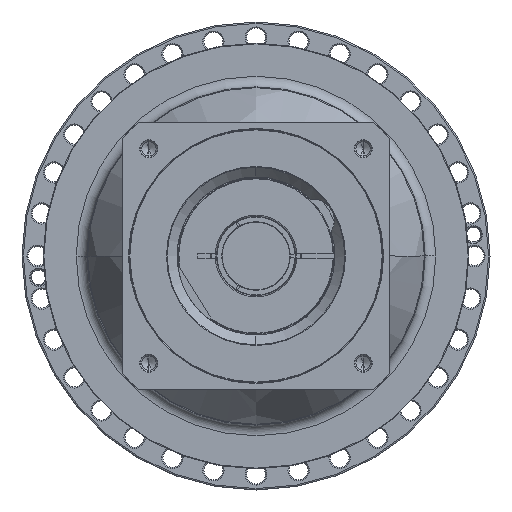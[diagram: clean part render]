
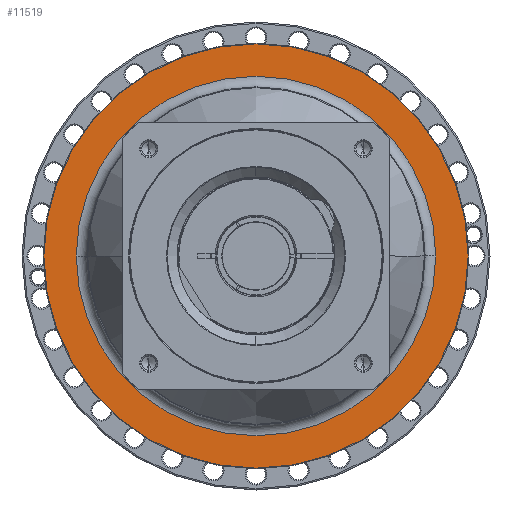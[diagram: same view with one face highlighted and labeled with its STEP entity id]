
A CAD part, left-side view. The second image highlights one B-rep face of the part: STEP entity #11519.
In plain terms, the highlighted planar face has unit normal (-1, 0, 0) as drawn and (1, 0, 0) by its records, which use the part's own axes.
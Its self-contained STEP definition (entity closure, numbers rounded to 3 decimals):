
#11032=CARTESIAN_POINT('',(-62.,0.,0.));
#11033=DIRECTION('',(1.,0.,0.));
#11034=DIRECTION('',(0.,1.,0.));
#11035=AXIS2_PLACEMENT_3D('',#11032,#11033,#11034);
#11037=CARTESIAN_POINT('',(-62.,0.,0.));
#11038=DIRECTION('',(1.,0.,0.));
#11039=DIRECTION('',(0.,-1.,0.));
#11040=AXIS2_PLACEMENT_3D('',#11037,#11038,#11039);
#11042=CARTESIAN_POINT('',(-62.,0.,0.));
#11043=DIRECTION('',(-1.,0.,0.));
#11044=DIRECTION('',(0.,-1.,0.));
#11045=AXIS2_PLACEMENT_3D('',#11042,#11043,#11044);
#11047=CARTESIAN_POINT('',(-62.,0.,0.));
#11048=DIRECTION('',(-1.,0.,0.));
#11049=DIRECTION('',(0.,1.,0.));
#11050=AXIS2_PLACEMENT_3D('',#11047,#11048,#11049);
#11172=CARTESIAN_POINT('',(-62.,-150.5,0.));
#11173=CARTESIAN_POINT('',(-62.,150.5,0.));
#11174=VERTEX_POINT('',#11172);
#11175=VERTEX_POINT('',#11173);
#11228=CARTESIAN_POINT('',(-62.,127.5,0.));
#11229=VERTEX_POINT('',#11228);
#11230=CARTESIAN_POINT('',(-62.,-127.5,0.));
#11231=VERTEX_POINT('',#11230);
#11504=CARTESIAN_POINT('',(-62.,0.,0.));
#11505=DIRECTION('',(1.,0.,0.));
#11506=DIRECTION('',(0.,-1.,0.));
#11507=AXIS2_PLACEMENT_3D('',#11504,#11505,#11506);
#11508=PLANE('',#11507);
#11510=ORIENTED_EDGE('',*,*,#11509,.T.);
#11512=ORIENTED_EDGE('',*,*,#11511,.T.);
#11513=EDGE_LOOP('',(#11510,#11512));
#11514=FACE_OUTER_BOUND('',#11513,.F.);
#11515=ORIENTED_EDGE('',*,*,#11498,.T.);
#11516=ORIENTED_EDGE('',*,*,#11484,.T.);
#11517=EDGE_LOOP('',(#11515,#11516));
#11518=FACE_BOUND('',#11517,.F.);
#11519=ADVANCED_FACE('',(#11514,#11518),#11508,.T.);
#11036=CIRCLE('',#11035,127.5);
#11041=CIRCLE('',#11040,127.5);
#11046=CIRCLE('',#11045,150.5);
#11051=CIRCLE('',#11050,150.5);
#11484=EDGE_CURVE('',#11231,#11229,#11041,.T.);
#11498=EDGE_CURVE('',#11229,#11231,#11036,.T.);
#11509=EDGE_CURVE('',#11174,#11175,#11046,.T.);
#11511=EDGE_CURVE('',#11175,#11174,#11051,.T.);
